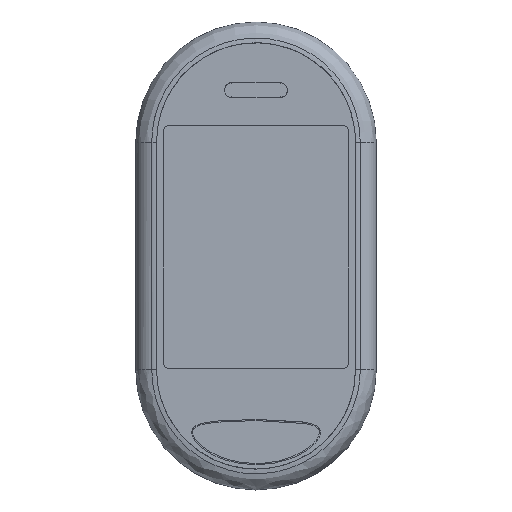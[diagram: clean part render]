
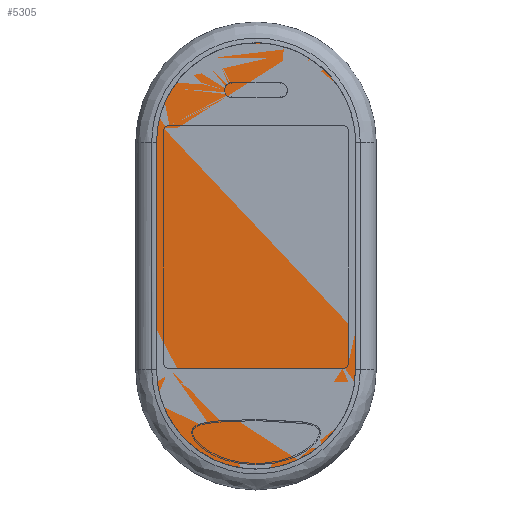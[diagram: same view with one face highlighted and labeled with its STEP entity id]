
A CAD part, top view. The second image highlights one B-rep face of the part: STEP entity #5305.
In plain terms, the highlighted planar face has unit normal (0, 0, 1).
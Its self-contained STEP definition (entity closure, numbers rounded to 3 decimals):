
#5229=CARTESIAN_POINT('',(-24.809,69.,7.1));
#5230=CARTESIAN_POINT('',(-24.809,70.302,7.1));
#5231=CARTESIAN_POINT('',(-24.607,72.874,7.1));
#5232=CARTESIAN_POINT('',(-23.694,76.695,7.1));
#5233=CARTESIAN_POINT('',(-22.2,80.301,7.1));
#5234=CARTESIAN_POINT('',(-20.157,83.638,7.1));
#5235=CARTESIAN_POINT('',(-17.618,86.612,7.1));
#5236=CARTESIAN_POINT('',(-14.647,89.15,7.1));
#5237=CARTESIAN_POINT('',(-11.311,91.195,7.1));
#5238=CARTESIAN_POINT('',(-7.698,92.692,7.1));
#5239=CARTESIAN_POINT('',(-3.899,93.604,7.1));
#5240=CARTESIAN_POINT('',(0.003,93.911,7.1));
#5241=CARTESIAN_POINT('',(3.895,93.605,7.1));
#5242=CARTESIAN_POINT('',(7.7,92.691,7.1));
#5243=CARTESIAN_POINT('',(11.314,91.193,7.1));
#5244=CARTESIAN_POINT('',(14.646,89.151,7.1));
#5245=CARTESIAN_POINT('',(17.619,86.61,7.1));
#5246=CARTESIAN_POINT('',(20.155,83.64,7.1));
#5247=CARTESIAN_POINT('',(22.2,80.301,7.1));
#5248=CARTESIAN_POINT('',(23.694,76.695,7.1));
#5249=CARTESIAN_POINT('',(24.607,72.875,7.1));
#5250=CARTESIAN_POINT('',(24.809,70.302,7.1));
#5251=CARTESIAN_POINT('',(24.809,69.,7.1));
#5253=DIRECTION('',(0.,-1.,0.));
#5254=VECTOR('',#5253,56.7);
#5255=CARTESIAN_POINT('',(24.809,69.,7.1));
#5256=LINE('',#5255,#5254);
#5257=CARTESIAN_POINT('',(24.809,12.3,7.1));
#5258=CARTESIAN_POINT('',(24.809,11.125,7.1));
#5259=CARTESIAN_POINT('',(24.651,8.733,7.1));
#5260=CARTESIAN_POINT('',(23.764,4.808,7.1));
#5261=CARTESIAN_POINT('',(22.289,1.174,7.1));
#5262=CARTESIAN_POINT('',(20.249,-2.214,7.1));
#5263=CARTESIAN_POINT('',(17.706,-5.225,7.1));
#5264=CARTESIAN_POINT('',(14.717,-7.801,7.1));
#5265=CARTESIAN_POINT('',(11.364,-9.87,7.1));
#5266=CARTESIAN_POINT('',(7.716,-11.387,7.1));
#5267=CARTESIAN_POINT('',(3.888,-12.307,7.1));
#5268=CARTESIAN_POINT('',(-0.02,-12.613,7.1));
#5269=CARTESIAN_POINT('',(-3.958,-12.297,7.1));
#5270=CARTESIAN_POINT('',(-7.789,-11.364,7.1));
#5271=CARTESIAN_POINT('',(-11.425,-9.839,7.1));
#5272=CARTESIAN_POINT('',(-14.779,-7.756,7.1));
#5273=CARTESIAN_POINT('',(-17.757,-5.174,7.1));
#5274=CARTESIAN_POINT('',(-20.292,-2.153,7.1));
#5275=CARTESIAN_POINT('',(-22.314,1.226,7.1));
#5276=CARTESIAN_POINT('',(-23.782,4.87,7.1));
#5277=CARTESIAN_POINT('',(-24.65,8.741,7.1));
#5278=CARTESIAN_POINT('',(-24.809,11.127,7.1));
#5279=CARTESIAN_POINT('',(-24.809,12.3,7.1));
#5281=DIRECTION('',(0.,1.,0.));
#5282=VECTOR('',#5281,56.7);
#5283=CARTESIAN_POINT('',(-24.809,12.3,7.1));
#5284=LINE('',#5283,#5282);
#5285=VERTEX_POINT('',#5229);
#5286=VERTEX_POINT('',#5251);
#5287=CARTESIAN_POINT('',(24.809,12.3,7.1));
#5288=VERTEX_POINT('',#5287);
#5289=VERTEX_POINT('',#5279);
#5290=CARTESIAN_POINT('',(-1.904,40.65,7.1));
#5291=DIRECTION('',(0.,0.,1.));
#5292=DIRECTION('',(1.,0.,0.));
#5293=AXIS2_PLACEMENT_3D('',#5290,#5291,#5292);
#5294=PLANE('',#5293);
#5296=ORIENTED_EDGE('',*,*,#5295,.T.);
#5298=ORIENTED_EDGE('',*,*,#5297,.T.);
#5300=ORIENTED_EDGE('',*,*,#5299,.T.);
#5302=ORIENTED_EDGE('',*,*,#5301,.T.);
#5303=EDGE_LOOP('',(#5296,#5298,#5300,#5302));
#5304=FACE_OUTER_BOUND('',#5303,.F.);
#5305=ADVANCED_FACE('',(#5304),#5294,.T.);
#5252=B_SPLINE_CURVE_WITH_KNOTS('',3,(#5229,#5230,#5231,#5232,#5233,#5234,#5235,
#5236,#5237,#5238,#5239,#5240,#5241,#5242,#5243,#5244,#5245,#5246,#5247,#5248,
#5249,#5250,#5251),.UNSPECIFIED.,.F.,.F.,(4,1,1,1,1,1,1,1,1,1,1,1,1,1,1,1,1,1,1,
1,4),(0.,0.05,0.1,0.15,0.2,0.25,0.3,0.35,0.4,0.45,0.5,
0.55,0.6,0.65,0.7,0.75,0.8,0.85,0.9,0.95,1.),.UNSPECIFIED.);
#5280=B_SPLINE_CURVE_WITH_KNOTS('',3,(#5257,#5258,#5259,#5260,#5261,#5262,#5263,
#5264,#5265,#5266,#5267,#5268,#5269,#5270,#5271,#5272,#5273,#5274,#5275,#5276,
#5277,#5278,#5279),.UNSPECIFIED.,.F.,.F.,(4,1,1,1,1,1,1,1,1,1,1,1,1,1,1,1,1,1,1,
1,4),(0.,0.05,0.1,0.15,0.2,0.25,0.3,0.35,0.4,0.45,0.5,
0.55,0.6,0.65,0.7,0.75,0.8,0.85,0.9,0.95,1.),.UNSPECIFIED.);
#5295=EDGE_CURVE('',#5285,#5286,#5252,.T.);
#5297=EDGE_CURVE('',#5286,#5288,#5256,.T.);
#5299=EDGE_CURVE('',#5288,#5289,#5280,.T.);
#5301=EDGE_CURVE('',#5289,#5285,#5284,.T.);
